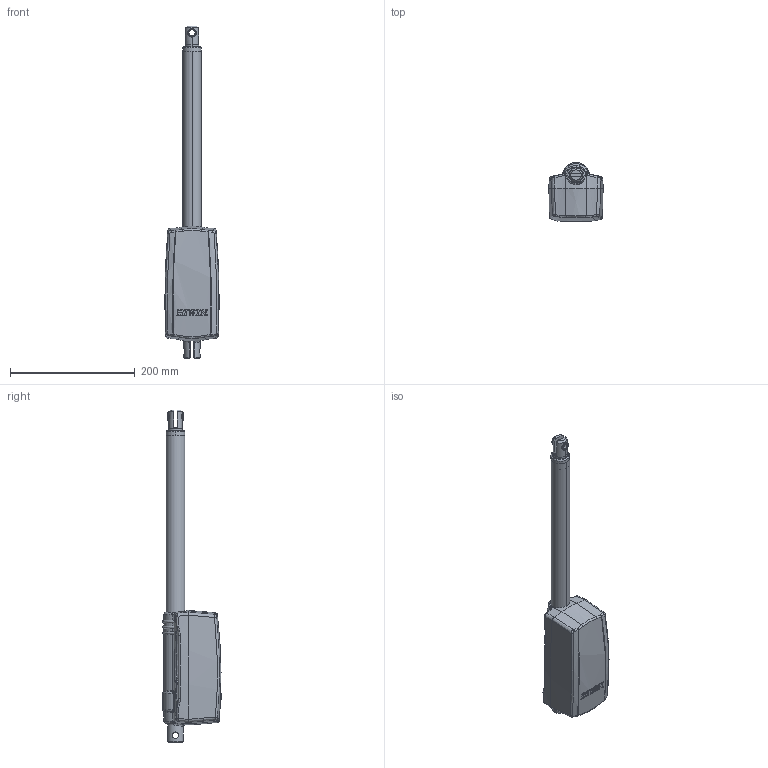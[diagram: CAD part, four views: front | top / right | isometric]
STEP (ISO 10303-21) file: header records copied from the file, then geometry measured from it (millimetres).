
FILE_DESCRIPTION((''),'2;1');
FILE_NAME('LAN4-S100_ASM','2007-07-12T',('amyliao'),(''),'PRO/ENGINEER BY PARAMETRIC TECHNOLOGY CORPORATION, 2003210','PRO/ENGINEER BY PARAMETRIC TECHNOLOGY CORPORATION, 2003210','');
FILE_SCHEMA(('CONFIG_CONTROL_DESIGN'));
Length unit declared in the file: millimetre
Products named in the file (9): COVER02; 04; 03; 01; 02; 05; N4-OUT-TUBE_ASM; COVER01; LAN4-S100_ASM
Assembly tree (9 placements, depth 3):
  LAN4-S100_ASM
    COVER02
    N4-OUT-TUBE_ASM
      04
      03
      01
      02
      05  x2
    COVER01
Bounding box: 86.98 x 94.2 x 532 mm (x, y, z)
Volume: 414593.1 mm3; surface area: 245603.1 mm2
Topology: 8 solids, 8 shells, 623 faces, 1609 edges, 1024 vertices
Faces by surface type: plane 213, cylinder 128, bspline 112, extrusion 92, cone 43, torus 19, sphere 16
Entity records: 25087 total; most frequent: CARTESIAN_POINT 11594, ORIENTED_EDGE 3174, DIRECTION 2073, EDGE_CURVE 1587, VERTEX_POINT 1010, B_SPLINE_CURVE_WITH_KNOTS 872, AXIS2_PLACEMENT_3D 742, EDGE_LOOP 661
